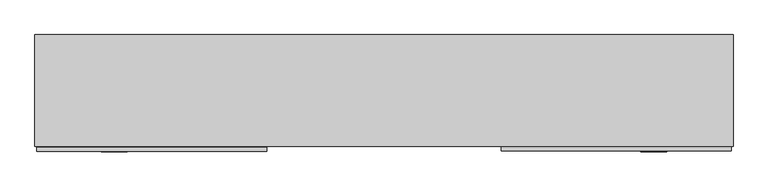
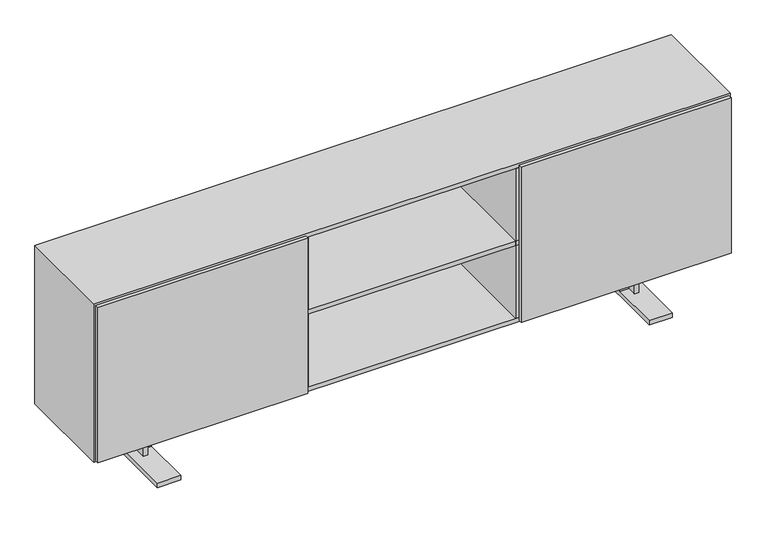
"""IFC4 building model written with IfcOpenShell, lengths in millimetres: furniture geometry, Haworth_Luxor_Cabinet_28 : HCCE-LX - Shelf & Two Drawers/Door - 71w 35h."""

from ifc_helpers import new_model, si_unit, frame, origin, place, context, project, spatial, polyline, outline, extrude, faceted_brep, source, transform, mapped, element, save


def furniture_48a592a2(model_context):
    return source(origin(), model_context, "Body", "SolidModel", [
        extrude(outline(polyline([(-453.0720026, 14.0619413), (-453.0720026, -0.9392987), (-1343.025, -0.9392987), (-1343.025, 14.0619413), (-453.0720026, 14.0619413)])), frame((0.0, 0.0, 196.85), z_axis=(0.0, 0.0, 1.0), x_axis=(1.0, 0.0, 0.0)), (0.0, 0.0, 1.0), 698.5),
        extrude(outline(polyline([(1343.025, 15.9405387), (1343.025, 0.9392987), (453.0720026, 0.9392987), (453.0720026, 15.9405387), (1343.025, 15.9405387)])), frame((0.0, 0.0, 196.85), z_axis=(0.0, 0.0, 1.0), x_axis=(1.0, 0.0, 0.0)), (0.0, 0.0, 1.0), 698.5),
        extrude(outline(polyline([(1330.325, 19.0420174), (-1330.325, 19.0420174), (-1330.325, 431.8), (1330.325, 431.8), (1330.325, 19.0420174)])), frame((0.0, 0.0, 536.575), z_axis=(0.0, 0.0, 1.0), x_axis=(1.0, 0.0, 0.0)), (0.0, 0.0, 1.0), 19.05),
        extrude(outline(polyline([(459.3166667, 19.0739478), (440.2666667, 19.0739478), (440.2666667, 423.0566059), (459.3166667, 423.0566059), (459.3166667, 19.0739478)])), frame((0.0, 0.0, 209.55), z_axis=(0.0, 0.0, 1.0), x_axis=(1.0, 0.0, 0.0)), (0.0, 0.0, 1.0), 673.1),
        extrude(outline(polyline([(-440.2666667, 19.0739478), (-459.3166667, 19.0739478), (-459.3166667, 423.0566059), (-440.2666667, 423.0566059), (-440.2666667, 19.0739478)])), frame((0.0, 0.0, 209.55), z_axis=(0.0, 0.0, 1.0), x_axis=(1.0, 0.0, 0.0)), (0.0, 0.0, 1.0), 673.1),
        faceted_brep([(1349.375, 19.0420174, 901.7), (-1349.375, 19.0420174, 901.7), (-1349.375, 19.0420174, 190.5), (1349.375, 19.0420174, 190.5), (-1330.325, 19.0420174, 882.65), (1330.325, 19.0420174, 882.65), (1330.325, 19.0420174, 209.55), (-1330.325, 19.0420174, 209.55), (1349.375, 450.85, 901.7), (1349.375, 450.85, 190.5), (-1349.375, 450.85, 190.5), (-1349.375, 450.85, 901.7), (-1330.325, 431.8, 882.65), (1330.325, 431.8, 882.65), (1330.325, 431.8, 209.55), (-1330.325, 431.8, 209.55)], [[[0, 1, 2, 3], [4, 5, 6, 7]], [[8, 9, 10, 11]], [[1, 0, 8, 11]], [[2, 1, 11, 10]], [[3, 2, 10, 9]], [[0, 3, 9, 8]], [[5, 4, 12, 13]], [[6, 5, 13, 14]], [[7, 6, 14, 15]], [[4, 7, 15, 12]], [[13, 12, 15, 14]]]),
        faceted_brep([(-1050.8500108, 171.1108775, 190.5), (-1031.8000108, 171.1108775, 190.5), (-1031.8000108, 211.6109348, 190.5), (1031.8000108, 211.6109348, 190.5), (1031.8000108, 171.1108775, 190.5), (1050.8500108, 171.1108775, 190.5), (1050.8500108, 269.1160418, 190.5), (1031.8000108, 269.1160418, 190.5), (1031.8000108, 230.9134, 190.5), (-1031.8000108, 230.9134, 190.5), (-1031.8000108, 269.1160418, 190.5), (-1050.8500108, 269.1160418, 190.5), (-1050.8500108, 171.1108775, 19.8859728), (-1031.8000108, 171.1108775, 19.8859728), (-1031.8000108, 211.6109348, 19.8859728), (-993.3499595, 211.6109348, 139.7), (993.3499595, 211.6109348, 139.7), (993.3499595, 211.6109348, 19.8859728), (1031.8000108, 211.6109348, 19.8859728), (-993.3499595, 211.6109348, 19.8859728), (-993.3499595, 230.9134, 139.7), (-993.3499595, -3.1790836, 19.8859728), (-993.3499595, -3.1790836, 0.0), (-993.3499595, 445.4008393, 0.0), (-993.3499595, 445.4008393, 19.8859728), (-993.3499595, 230.9134, 19.8859728), (993.3499595, 230.9134, 139.7), (-1031.8000108, 230.9134, 19.8859728), (1031.8000108, 230.9134, 19.8859728), (993.3499595, 230.9134, 19.8859728), (-1031.8000108, 269.1160418, 19.8859728), (-1050.8500108, 269.1160418, 19.8859728), (1031.8000108, 171.1108775, 19.8859728), (1050.8500108, 171.1108775, 19.8859728), (993.3499595, 445.4008393, 19.8859728), (993.3499595, 445.4008393, 0.0), (993.3499595, -3.1790836, 0.0), (993.3499595, -3.1790836, 19.8859728), (1031.8000108, 269.1160418, 19.8859728), (1050.8500108, 269.1160418, 19.8859728), (-1092.3500213, 445.4008393, 19.8859728), (-1092.3500213, -3.1790836, 19.8859728), (-1092.3500213, -3.1790836, 0.0), (-1092.3500213, 445.4008393, 0.0), (1092.3500213, -3.1790836, 19.8859728), (1092.3500213, 445.4008393, 19.8859728), (1092.3500213, 445.4008393, 0.0), (1092.3500213, -3.1790836, 0.0)], [[[0, 1, 2, 3, 4, 5, 6, 7, 8, 9, 10, 11]], [[1, 0, 12, 13]], [[2, 1, 13, 14]], [[15, 16, 17, 18, 3, 2, 14, 19]], [[20, 15, 19, 21, 22, 23, 24, 25]], [[26, 20, 25, 27, 9, 8, 28, 29]], [[10, 9, 27, 30]], [[11, 10, 30, 31]], [[0, 11, 31, 12]], [[20, 26, 16, 15]], [[5, 4, 32, 33]], [[4, 3, 18, 32]], [[26, 29, 34, 35, 36, 37, 17, 16]], [[8, 7, 38, 28]], [[7, 6, 39, 38]], [[6, 5, 33, 39]], [[24, 40, 41, 21, 19, 14, 13, 12, 31, 30, 27, 25]], [[23, 22, 42, 43]], [[40, 24, 23, 43]], [[41, 40, 43, 42]], [[21, 41, 42, 22]], [[37, 44, 45, 34, 29, 28, 38, 39, 33, 32, 18, 17]], [[35, 46, 47, 36]], [[34, 45, 46, 35]], [[45, 44, 47, 46]], [[44, 37, 36, 47]]]),
    ])


if __name__ == "__main__":
    model = new_model("IFC4")
    model_context = context("Model", 3, world=origin())
    ifc_project = project(units=[si_unit("LENGTHUNIT", "METRE", prefix="MILLI")], contexts=[model_context])
    site = spatial("IfcSite", under=ifc_project)
    building = spatial("IfcBuilding", under=site)
    placement = place(None, origin())
    furniture_shape = furniture_48a592a2(model_context)
    element("IfcFurniture", 1, ObjectType="Haworth_Luxor_Cabinet_28 : HCCE-LX - Shelf & Two Drawers/Door - 71w 35h", at=placement, inside=building, context=model_context, shape_type="MappedRepresentation", body=[
        mapped(furniture_shape, transform((0.0, 0.0, 0.0), x_axis=(1.0, 0.0, 0.0), y_axis=(0.0, 1.0, 0.0), z_axis=(0.0, 0.0, 1.0))),
    ])
    save(model, "model.ifc")
